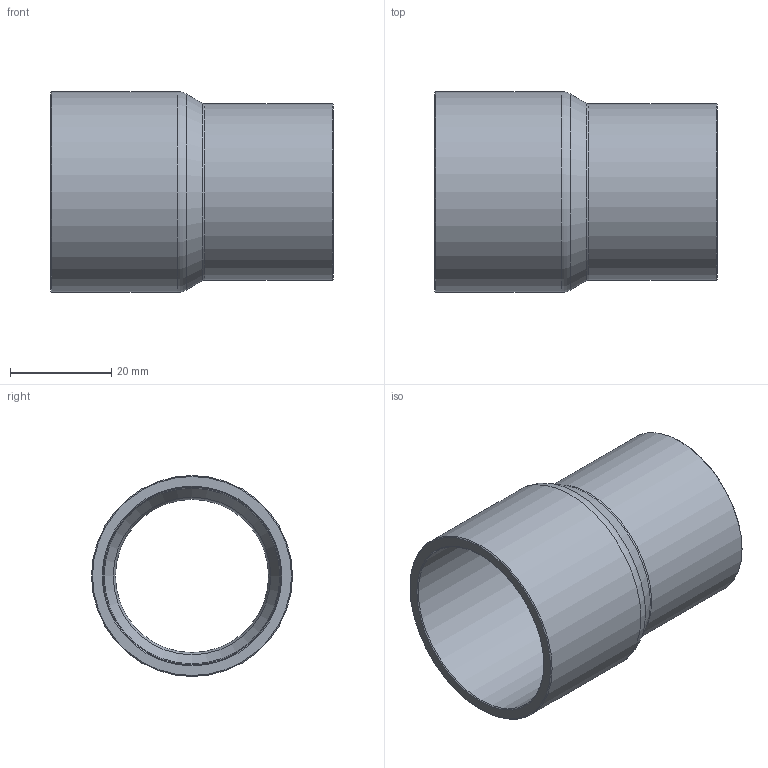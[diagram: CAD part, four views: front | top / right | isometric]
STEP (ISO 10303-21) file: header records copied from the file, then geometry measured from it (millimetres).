
FILE_DESCRIPTION((''),'2;1');
FILE_NAME('G:\SANHA-Ternat\Technik\Management\Bouwmaten + markeringen\z-maattekeningen 3D\29000s\29243IM13835_3d.stp','2017-08-07T11:49:19',('vdvijverd'),(''),'Autodesk Inventor 2009','Autodesk Inventor 2009','');
FILE_SCHEMA(('AUTOMOTIVE_DESIGN { 1 0 10303 214 1 1 1 1 }'));
Length unit declared in the file: millimetre
Products named in the file (1): 29243IM13835_3d
Bounding box: 56 x 39.78 x 39.78 mm (x, y, z)
Volume: 14318.6 mm3; surface area: 12912.5 mm2
Topology: 1 solids, 1 shells, 16 faces, 30 edges, 16 vertices
Faces by surface type: cone 6, cylinder 4, plane 2, torus 2, bspline 2
Full cylindrical faces by diameter (mm): 30.32 x1, 34.92 x1, 35.18 x1, 39.78 x1
Entity records: 434 total; most frequent: CARTESIAN_POINT 137, DIRECTION 62, ORIENTED_EDGE 32, EDGE_LOOP 32, AXIS2_PLACEMENT_3D 31, VERTEX_POINT 16, CIRCLE 16, EDGE_CURVE 16
